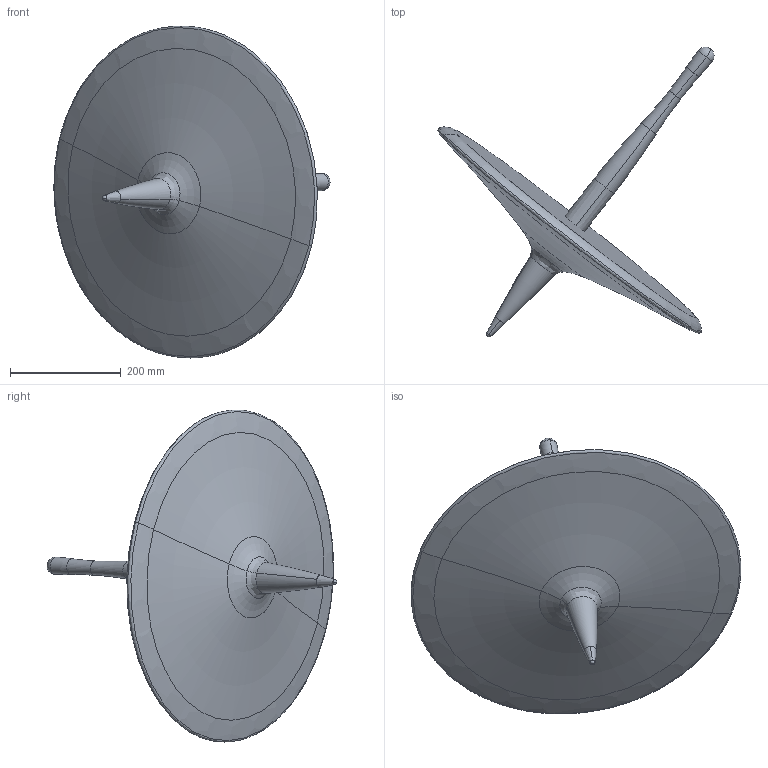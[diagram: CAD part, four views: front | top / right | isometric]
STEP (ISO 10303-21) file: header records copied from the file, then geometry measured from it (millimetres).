
FILE_DESCRIPTION (( 'STEP AP203' ), '1' );
FILE_NAME ('PEONZA_FINAL.STEP', '2017-05-05T07:51:27', ( 'Usuario' ), ( '' ), 'SwSTEP 2.0', 'SolidWorks 2016', '' );
FILE_SCHEMA (( 'CONFIG_CONTROL_DESIGN' ));
Length unit declared in the file: millimetre
Products named in the file (5): PIEZA_SUPERIOR_PEONZA_2; ESPEJO_PEONZA_3; PUNTA PEONZA; PEONZA_FINAL; PIEZA_INFERIOR_PEONZA_3_V2
Assembly tree (4 placements, depth 2):
  PEONZA_FINAL
    PIEZA_INFERIOR_PEONZA_3_V2
    PIEZA_SUPERIOR_PEONZA_2
    ESPEJO_PEONZA_3
    PUNTA PEONZA
Bounding box: 498.33 x 522.92 x 599.01 mm (x, y, z)
Volume: 11161416 mm3; surface area: 1144254.8 mm2
Topology: 4 solids, 4 shells, 54 faces, 104 edges, 62 vertices
Faces by surface type: torus 20, cylinder 12, plane 10, bspline 4, sphere 4, cone 4
Entity records: 1971 total; most frequent: CARTESIAN_POINT 299, DIRECTION 298, ORIENTED_EDGE 208, AXIS2_PLACEMENT_3D 141, EDGE_CURVE 104, CIRCLE 84, VERTEX_POINT 62, EDGE_LOOP 60
